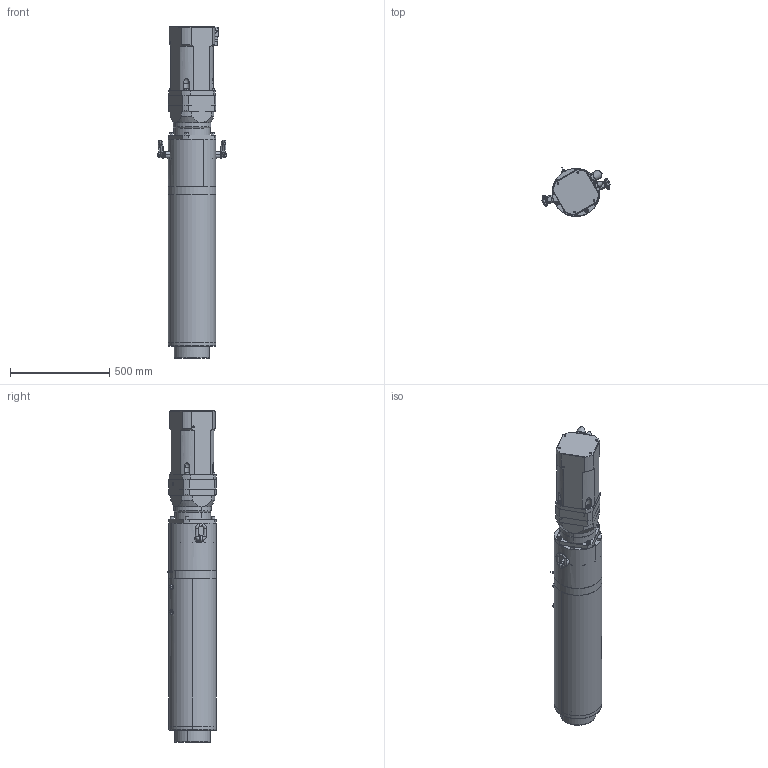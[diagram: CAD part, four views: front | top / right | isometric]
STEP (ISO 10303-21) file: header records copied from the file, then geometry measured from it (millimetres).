
FILE_DESCRIPTION (( 'STEP AP203' ), '1' );
FILE_NAME ('KM LN5I2000-035-010N.STEP', '2019-07-05T10:42:36', ( '' ), ( '' ), 'SwSTEP 2.0', 'SolidWorks 2016', '' );
FILE_SCHEMA (( 'CONFIG_CONTROL_DESIGN' ));
Length unit declared in the file: millimetre
Products named in the file (1): KM LN5I2000-035-010N
Bounding box: 345.55 x 245.71 x 1673 mm (x, y, z)
Surface area: 3268927 mm2 (no closed solid volume)
Topology: 0 solids, 36 shells, 1327 faces, 3164 edges, 1926 vertices
Faces by surface type: cylinder 558, plane 477, cone 216, torus 70, bspline 6
Entity records: 39838 total; most frequent: CARTESIAN_POINT 8976, DIRECTION 6825, ORIENTED_EDGE 6040, EDGE_CURVE 3026, AXIS2_PLACEMENT_3D 2675, VERTEX_POINT 1926, EDGE_LOOP 1576, VECTOR 1475
